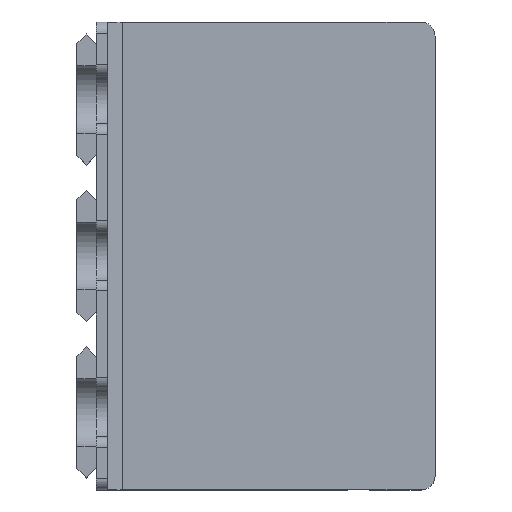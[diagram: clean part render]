
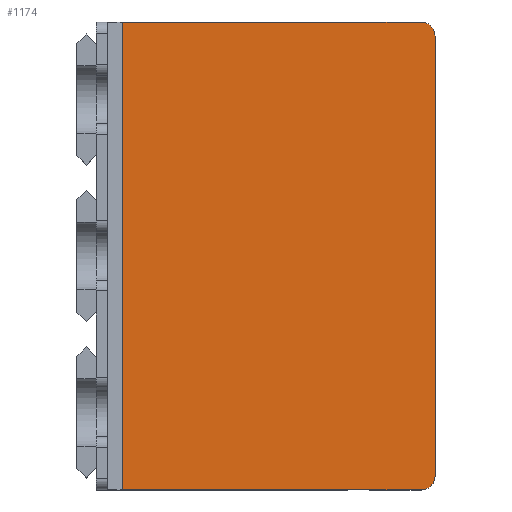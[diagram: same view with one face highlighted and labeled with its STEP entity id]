
A CAD part, top view. The second image highlights one B-rep face of the part: STEP entity #1174.
In plain terms, the highlighted planar face has unit normal (0, 0, 1).
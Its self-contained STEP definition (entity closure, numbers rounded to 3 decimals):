
#34=CIRCLE('',#1254,3.75);
#35=CIRCLE('',#1255,3.75);
#72=FACE_OUTER_BOUND('',#137,.T.);
#137=EDGE_LOOP('',(#802,#803,#804,#805,#806,#807));
#214=LINE('',#1716,#356);
#220=LINE('',#1728,#362);
#222=LINE('',#1732,#364);
#223=LINE('',#1736,#365);
#356=VECTOR('',#1369,10.);
#362=VECTOR('',#1379,10.);
#364=VECTOR('',#1383,10.);
#365=VECTOR('',#1386,10.);
#495=VERTEX_POINT('',#1713);
#496=VERTEX_POINT('',#1715);
#500=VERTEX_POINT('',#1726);
#501=VERTEX_POINT('',#1731);
#502=VERTEX_POINT('',#1733);
#503=VERTEX_POINT('',#1735);
#612=EDGE_CURVE('',#496,#495,#214,.T.);
#618=EDGE_CURVE('',#500,#495,#220,.T.);
#620=EDGE_CURVE('',#501,#500,#222,.T.);
#621=EDGE_CURVE('',#502,#501,#34,.T.);
#622=EDGE_CURVE('',#503,#502,#223,.T.);
#623=EDGE_CURVE('',#496,#503,#35,.T.);
#802=ORIENTED_EDGE('',*,*,#618,.F.);
#803=ORIENTED_EDGE('',*,*,#620,.F.);
#804=ORIENTED_EDGE('',*,*,#621,.F.);
#805=ORIENTED_EDGE('',*,*,#622,.F.);
#806=ORIENTED_EDGE('',*,*,#623,.F.);
#807=ORIENTED_EDGE('',*,*,#612,.T.);
#1125=PLANE('',#1253);
#1174=ADVANCED_FACE('',(#72),#1125,.F.);
#1253=AXIS2_PLACEMENT_3D('',#1730,#1381,#1382);
#1254=AXIS2_PLACEMENT_3D('',#1734,#1384,#1385);
#1255=AXIS2_PLACEMENT_3D('',#1737,#1387,#1388);
#1369=DIRECTION('',(-1.,0.,0.));
#1379=DIRECTION('',(0.,1.,0.));
#1381=DIRECTION('center_axis',(0.,0.,-1.));
#1382=DIRECTION('ref_axis',(1.,0.,0.));
#1383=DIRECTION('',(-1.,0.,0.));
#1384=DIRECTION('center_axis',(0.,0.,-1.));
#1385=DIRECTION('ref_axis',(0.707,-0.707,0.));
#1386=DIRECTION('',(0.,-1.,0.));
#1387=DIRECTION('center_axis',(0.,0.,-1.));
#1388=DIRECTION('ref_axis',(0.707,0.707,0.));
#1713=CARTESIAN_POINT('',(103.15,104.8,-137.478));
#1715=CARTESIAN_POINT('',(183.4,104.8,-137.478));
#1716=CARTESIAN_POINT('',(122.15,104.8,-137.478));
#1726=CARTESIAN_POINT('',(103.15,-20.8,-137.478));
#1728=CARTESIAN_POINT('',(103.15,21.,-137.478));
#1730=CARTESIAN_POINT('Origin',(122.15,42.,-137.478));
#1731=CARTESIAN_POINT('',(183.4,-20.8,-137.478));
#1732=CARTESIAN_POINT('',(122.15,-20.8,-137.478));
#1733=CARTESIAN_POINT('',(187.15,-17.05,-137.478));
#1734=CARTESIAN_POINT('Origin',(183.4,-17.05,-137.478));
#1735=CARTESIAN_POINT('',(187.15,101.05,-137.478));
#1736=CARTESIAN_POINT('',(187.15,42.,-137.478));
#1737=CARTESIAN_POINT('Origin',(183.4,101.05,-137.478));
